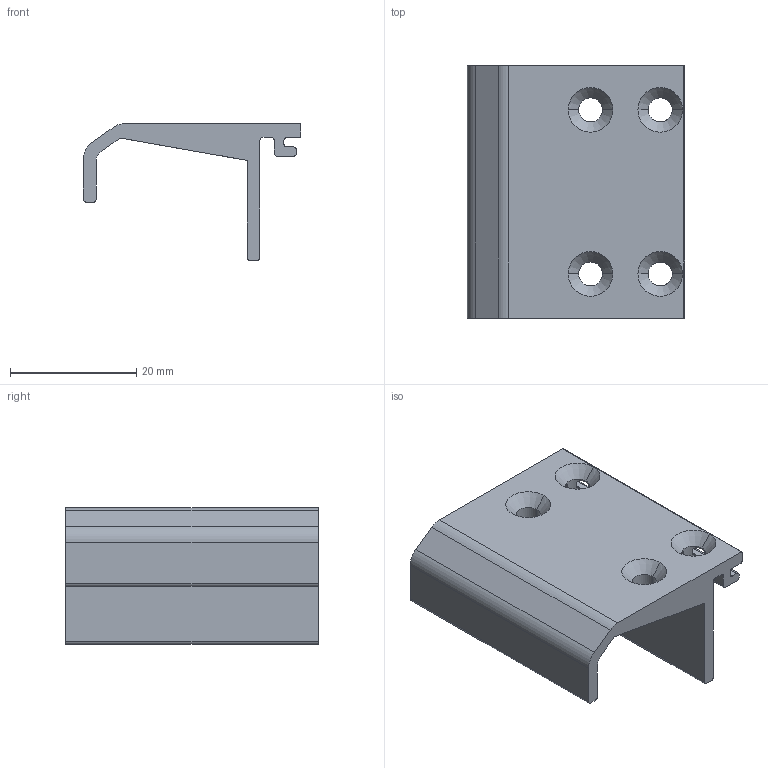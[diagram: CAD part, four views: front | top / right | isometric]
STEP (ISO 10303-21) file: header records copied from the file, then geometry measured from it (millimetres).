
FILE_DESCRIPTION (( 'STEP AP214' ), '1' );
FILE_NAME ('F3 Bottom Pivot Fixing Plate - Rigid Cover.STEP', '2024-07-05T04:02:40', ( '' ), ( '' ), 'SwSTEP 2.0', 'SolidWorks 2023', '' );
FILE_SCHEMA (( 'AUTOMOTIVE_DESIGN' ));
Length unit declared in the file: millimetre
Products named in the file (1): F3 Bottom Pivot Fixing Plate - Rigid Cover
Bounding box: 34.4 x 40 x 21.7 mm (x, y, z)
Volume: 6688 mm3; surface area: 5663.4 mm2
Topology: 1 solids, 1 shells, 64 faces, 196 edges, 128 vertices
Faces by surface type: cylinder 32, plane 24, cone 8
Entity records: 2331 total; most frequent: CARTESIAN_POINT 517, ORIENTED_EDGE 392, DIRECTION 370, EDGE_CURVE 196, AXIS2_PLACEMENT_3D 129, VERTEX_POINT 128, VECTOR 112, LINE 112
